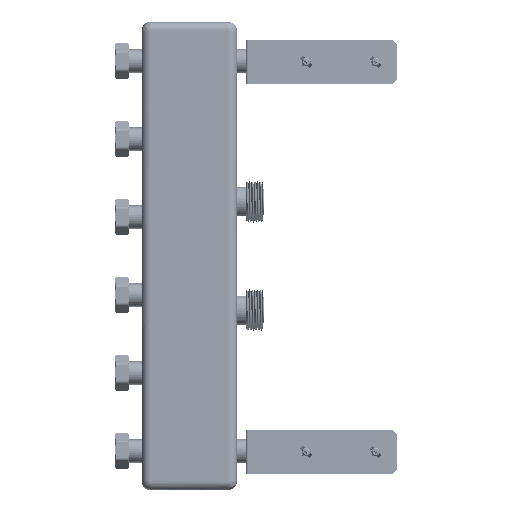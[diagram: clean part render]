
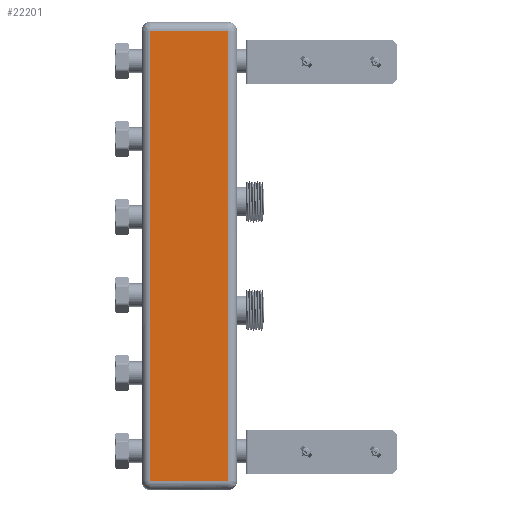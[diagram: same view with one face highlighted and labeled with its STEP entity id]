
A CAD part, left-side view. The second image highlights one B-rep face of the part: STEP entity #22201.
In plain terms, the highlighted planar face has unit normal (-1, 0, 0) as drawn and (1, 0, 0) by its records, which use the part's own axes.
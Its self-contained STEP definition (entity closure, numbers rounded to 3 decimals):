
#2464 = EDGE_CURVE ( 'NONE', #13341, #29510, #30947, .T. ) ;
#5940 = FACE_OUTER_BOUND ( 'NONE', #19956, .T. ) ;
#8751 = VECTOR ( 'NONE', #49778, 1000. ) ;
#9434 = EDGE_CURVE ( 'NONE', #51713, #39899, #17198, .T. ) ;
#9486 = DIRECTION ( 'NONE',  ( 0., -1., 0. ) ) ;
#9989 = PLANE ( 'NONE',  #24762 ) ;
#10114 = LINE ( 'NONE', #56406, #53159 ) ;
#10943 = ORIENTED_EDGE ( 'NONE', *, *, #2464, .T. ) ;
#12427 = CARTESIAN_POINT ( 'NONE',  ( 55., 0., 10. ) ) ;
#13341 = VERTEX_POINT ( 'NONE', #53775 ) ;
#14637 = VECTOR ( 'NONE', #41059, 1000. ) ;
#17198 = LINE ( 'NONE', #58602, #38050 ) ;
#18481 = ORIENTED_EDGE ( 'NONE', *, *, #9434, .T. ) ;
#18806 = CARTESIAN_POINT ( 'NONE',  ( 55., 10., 10. ) ) ;
#19956 = EDGE_LOOP ( 'NONE', ( #47276, #18481, #43177, #10943 ) ) ;
#20106 = CARTESIAN_POINT ( 'NONE',  ( 55., 0., 0. ) ) ;
#22201 = ADVANCED_FACE ( 'NONE', ( #5940 ), #9989, .T. ) ;
#24762 = AXIS2_PLACEMENT_3D ( 'NONE', #20106, #58101, #28826 ) ;
#26904 = LINE ( 'NONE', #12427, #8751 ) ;
#28826 = DIRECTION ( 'NONE',  ( 0., 0., -1. ) ) ;
#29510 = VERTEX_POINT ( 'NONE', #18806 ) ;
#30947 = LINE ( 'NONE', #50649, #14637 ) ;
#35642 = CARTESIAN_POINT ( 'NONE',  ( 55., 100., 530. ) ) ;
#38050 = VECTOR ( 'NONE', #49936, 1000. ) ;
#39899 = VERTEX_POINT ( 'NONE', #35642 ) ;
#41059 = DIRECTION ( 'NONE',  ( 0., 0., -1. ) ) ;
#41853 = EDGE_CURVE ( 'NONE', #29510, #51713, #26904, .T. ) ;
#43177 = ORIENTED_EDGE ( 'NONE', *, *, #57157, .T. ) ;
#44557 = CARTESIAN_POINT ( 'NONE',  ( 55., 100., 10. ) ) ;
#47276 = ORIENTED_EDGE ( 'NONE', *, *, #41853, .T. ) ;
#49778 = DIRECTION ( 'NONE',  ( 0., 1., 0. ) ) ;
#49936 = DIRECTION ( 'NONE',  ( 0., 0., 1. ) ) ;
#50649 = CARTESIAN_POINT ( 'NONE',  ( 55., 10., 0. ) ) ;
#51713 = VERTEX_POINT ( 'NONE', #44557 ) ;
#53159 = VECTOR ( 'NONE', #9486, 1000. ) ;
#53775 = CARTESIAN_POINT ( 'NONE',  ( 55., 10., 530. ) ) ;
#56406 = CARTESIAN_POINT ( 'NONE',  ( 55., 0., 530. ) ) ;
#57157 = EDGE_CURVE ( 'NONE', #39899, #13341, #10114, .T. ) ;
#58101 = DIRECTION ( 'NONE',  ( 1., 0., 0. ) ) ;
#58602 = CARTESIAN_POINT ( 'NONE',  ( 55., 100., 0. ) ) ;
